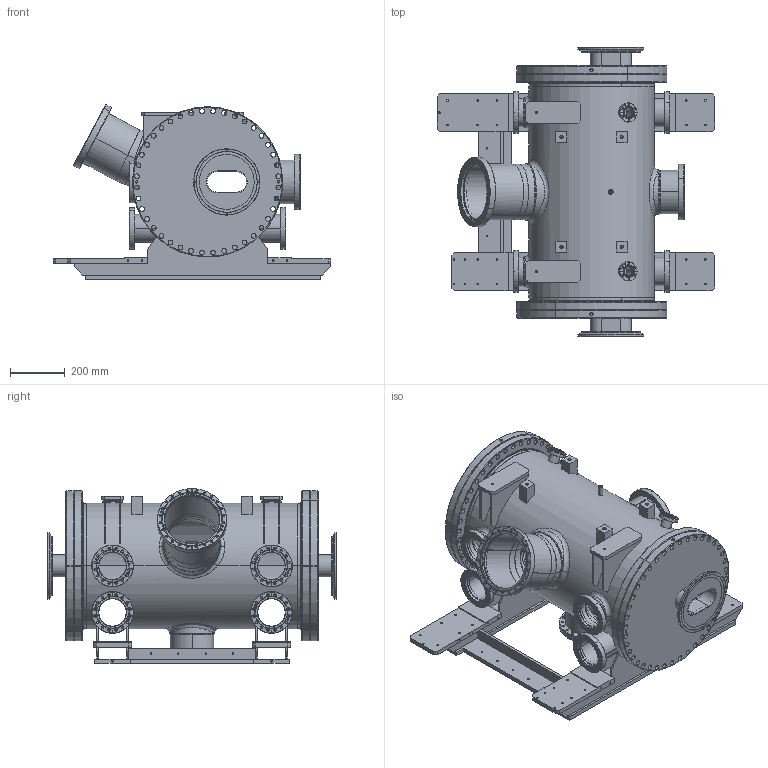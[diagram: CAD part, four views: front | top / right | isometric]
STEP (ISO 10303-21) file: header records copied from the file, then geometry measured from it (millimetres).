
FILE_DESCRIPTION(('CATIA V5-6R2013 STEP','CAx-IF Rec.Pracs.--- Model Styling and Organization---1.4--- 2014-01-23','CAx-IF Rec.Pracs.--- Geometric and Assembly Validation Properties ---4.2---2014-10-09'),'2;1');
FILE_NAME('C:\Users\lojorat\cernbox\CNAO ESE2\STEP files\STEP released\ESE2 Vacuum Tank and Covers - RELEASED 14.07.21.stp','2021-07-14T12:34:41+00:00',('none'),('CERN'),'CATIA Version 5-6 Release 2017 SP6 HF16','CATIA V5 STEP AP214','none');
FILE_SCHEMA(('AUTOMOTIVE_DESIGN { 1 0 10303 214 1 1 1 1 }'));
Length unit declared in the file: millimetre
Products named in the file (29): ST1458326_01; ST1387394_01; ST1388204_01; ST1370583_01; ST1439557_01; ST1387716_01; ST1428359_01; ST1387973_01; ST1388110_01; ST1388049_01; ST1391707_01; ST1391708_01; ST1403229_01; ST1451367_01; ST1360132_01; ST1360147_01; ST1360149_01; ST1360150_01; ST1424725_01; ST0447395_01; ST0447419_01; ST0447415_01; ST0447413_01; ST1370578_01; ST1433812_01; ST1370577_01; ST1370580_01; ST1360239_01; ST1360167_01
Assembly tree (56 placements, depth 3):
  ST1458326_01
    ST1387394_01
      ST1388204_01
      ST1370583_01  x2
      ST1439557_01  x4
      ST1387716_01
      ST1428359_01
      ST1387973_01  x2
      ST1388110_01
      ST1388049_01
      ST1391707_01  x4
      ST1391708_01  x2
      ST1403229_01
      ST1451367_01
      ST1360132_01  x2
      ST1360147_01  x2
      ST1360149_01  x4
      ST1360150_01  x2
      ST1424725_01  x4
      ST0447395_01  x2
      ST0447419_01  x6
      ST0447415_01  x2
      ST0447413_01
    ST1370578_01  x2
    ST1433812_01  x2
    ST1370577_01  x2
      ST1370580_01
      ST1360239_01
      ST1360167_01
Bounding box: 1013.8 x 1055 x 638.3 mm (x, y, z)
Volume: 31727640.3 mm3; surface area: 7812584.5 mm2
Topology: 56 solids, 56 shells, 2213 faces, 5796 edges, 3695 vertices
Faces by surface type: cylinder 1283, plane 508, cone 270, torus 116, bspline 32, extrusion 4
Entity records: 40769 total; most frequent: CARTESIAN_POINT 13950, ORIENTED_EDGE 5522, DIRECTION 4093, EDGE_CURVE 2761, AXIS2_PLACEMENT_3D 2170, VERTEX_POINT 1770, EDGE_LOOP 1541, CIRCLE 1408
